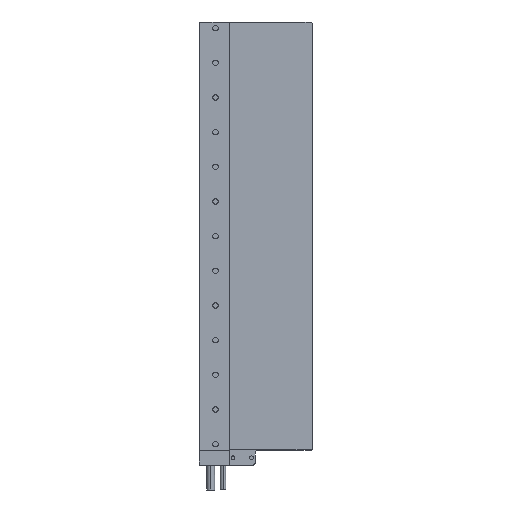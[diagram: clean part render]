
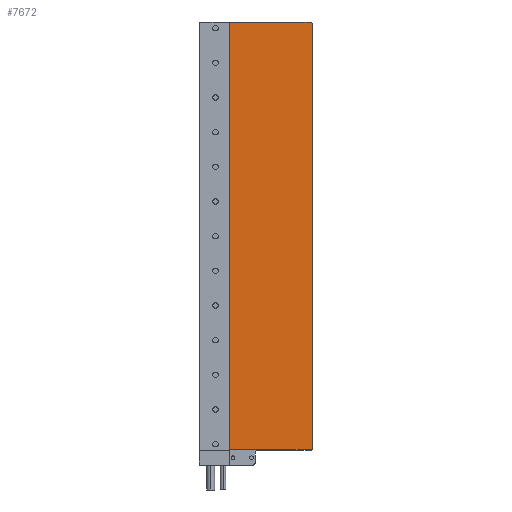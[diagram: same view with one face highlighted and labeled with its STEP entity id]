
A CAD part, front view. The second image highlights one B-rep face of the part: STEP entity #7672.
In plain terms, the highlighted planar face has unit normal (0, -1, 0).
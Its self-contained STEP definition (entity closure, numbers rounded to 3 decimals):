
#63 = PLANE ( 'NONE',  #891 ) ;
#410 = VERTEX_POINT ( 'NONE', #7166 ) ;
#605 = VERTEX_POINT ( 'NONE', #6056 ) ;
#620 = EDGE_CURVE ( 'NONE', #3841, #6305, #4880, .T. ) ;
#734 = FACE_OUTER_BOUND ( 'NONE', #8796, .T. ) ;
#767 = CARTESIAN_POINT ( 'NONE',  ( 156.483, 157.012, 123.158 ) ) ;
#891 = AXIS2_PLACEMENT_3D ( 'NONE', #767, #5816, #2215 ) ;
#1008 = CARTESIAN_POINT ( 'NONE',  ( 156.483, 157.012, 123.158 ) ) ;
#1199 = CARTESIAN_POINT ( 'NONE',  ( 156.483, 157.012, 481.158 ) ) ;
#1534 = AXIS2_PLACEMENT_3D ( 'NONE', #4008, #4719, #1857 ) ;
#1611 = VECTOR ( 'NONE', #7548, 1000. ) ;
#1647 = CARTESIAN_POINT ( 'NONE',  ( 156.483, 157.012, 137.158 ) ) ;
#1855 = CARTESIAN_POINT ( 'NONE',  ( 89.183, 157.012, 123.158 ) ) ;
#1857 = DIRECTION ( 'NONE',  ( 1., 0., 0. ) ) ;
#1970 = LINE ( 'NONE', #1199, #3203 ) ;
#2029 = AXIS2_PLACEMENT_3D ( 'NONE', #2348, #3101, #7375 ) ;
#2215 = DIRECTION ( 'NONE',  ( 1., 0., 0. ) ) ;
#2348 = CARTESIAN_POINT ( 'NONE',  ( 154.483, 157.012, 137.158 ) ) ;
#2681 = ORIENTED_EDGE ( 'NONE', *, *, #4582, .T. ) ;
#2695 = DIRECTION ( 'NONE',  ( -1., 0., 0. ) ) ;
#3101 = DIRECTION ( 'NONE',  ( 0., -1., 0. ) ) ;
#3203 = VECTOR ( 'NONE', #3415, 1000. ) ;
#3415 = DIRECTION ( 'NONE',  ( -1., 0., 0. ) ) ;
#3841 = VERTEX_POINT ( 'NONE', #7846 ) ;
#3918 = DIRECTION ( 'NONE',  ( 0., 0., 1. ) ) ;
#3998 = ORIENTED_EDGE ( 'NONE', *, *, #7602, .F. ) ;
#4008 = CARTESIAN_POINT ( 'NONE',  ( 154.483, 157.012, 479.158 ) ) ;
#4122 = VECTOR ( 'NONE', #2695, 1000. ) ;
#4191 = CARTESIAN_POINT ( 'NONE',  ( 89.183, 157.012, 481.158 ) ) ;
#4238 = CARTESIAN_POINT ( 'NONE',  ( 156.483, 157.012, 136.158 ) ) ;
#4415 = ORIENTED_EDGE ( 'NONE', *, *, #5915, .T. ) ;
#4565 = LINE ( 'NONE', #4238, #4122 ) ;
#4582 = EDGE_CURVE ( 'NONE', #410, #6437, #7428, .T. ) ;
#4719 = DIRECTION ( 'NONE',  ( 0., -1., 0. ) ) ;
#4824 = EDGE_CURVE ( 'NONE', #6409, #605, #6515, .T. ) ;
#4880 = LINE ( 'NONE', #1855, #1611 ) ;
#5597 = VECTOR ( 'NONE', #3918, 1000. ) ;
#5816 = DIRECTION ( 'NONE',  ( 0., 1., 0. ) ) ;
#5851 = ORIENTED_EDGE ( 'NONE', *, *, #8068, .T. ) ;
#5915 = EDGE_CURVE ( 'NONE', #6437, #6409, #7760, .T. ) ;
#6056 = CARTESIAN_POINT ( 'NONE',  ( 154.483, 157.012, 481.158 ) ) ;
#6305 = VERTEX_POINT ( 'NONE', #4191 ) ;
#6409 = VERTEX_POINT ( 'NONE', #7195 ) ;
#6437 = VERTEX_POINT ( 'NONE', #1647 ) ;
#6515 = CIRCLE ( 'NONE', #1534, 2. ) ;
#7166 = CARTESIAN_POINT ( 'NONE',  ( 156.215, 157.012, 136.158 ) ) ;
#7195 = CARTESIAN_POINT ( 'NONE',  ( 156.483, 157.012, 479.158 ) ) ;
#7375 = DIRECTION ( 'NONE',  ( 0., 0., 1. ) ) ;
#7428 = CIRCLE ( 'NONE', #2029, 2. ) ;
#7548 = DIRECTION ( 'NONE',  ( 0., 0., 1. ) ) ;
#7602 = EDGE_CURVE ( 'NONE', #410, #3841, #4565, .T. ) ;
#7672 = ADVANCED_FACE ( 'NONE', ( #734 ), #63, .F. ) ;
#7760 = LINE ( 'NONE', #1008, #5597 ) ;
#7846 = CARTESIAN_POINT ( 'NONE',  ( 89.183, 157.012, 136.158 ) ) ;
#8068 = EDGE_CURVE ( 'NONE', #605, #6305, #1970, .T. ) ;
#8796 = EDGE_LOOP ( 'NONE', ( #4415, #9332, #5851, #9156, #3998, #2681 ) ) ;
#9156 = ORIENTED_EDGE ( 'NONE', *, *, #620, .F. ) ;
#9332 = ORIENTED_EDGE ( 'NONE', *, *, #4824, .T. ) ;
